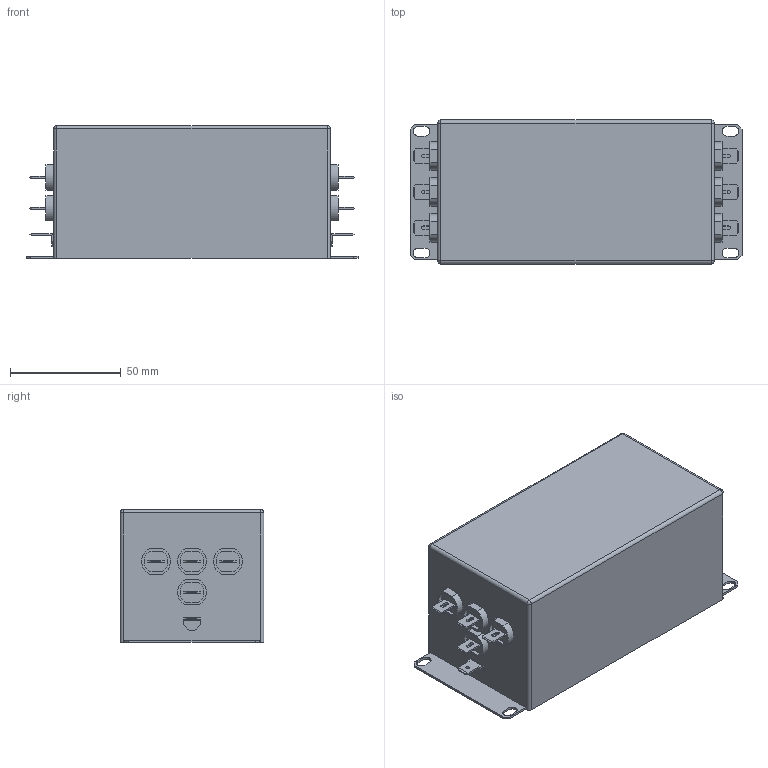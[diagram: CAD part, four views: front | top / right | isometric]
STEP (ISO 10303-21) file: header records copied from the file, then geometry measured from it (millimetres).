
FILE_DESCRIPTION((''),'2;1');
FILE_NAME('L:\INVENTOR_Projektedaten\HousingDesign\FN354-12-05.stp','2012-12-10T10:36:30',('Samuel.Meier'),(''),'Autodesk Inventor 2010','Autodesk Inventor 2010','');
FILE_SCHEMA(('AUTOMOTIVE_DESIGN { 1 2 10303 214 0 1 1 1 }'));
Length unit declared in the file: millimetre
Products named in the file (1): FN354-12-05
Bounding box: 150 x 65 x 60 mm (x, y, z)
Volume: 491543.5 mm3; surface area: 45257.6 mm2
Topology: 1 solids, 9 shells, 670 faces, 1838 edges, 1208 vertices
Faces by surface type: plane 392, cylinder 196, bspline 78, sphere 4
Full cylindrical faces by diameter (mm): 1.6 x2
Entity records: 23177 total; most frequent: CARTESIAN_POINT 5537, ORIENTED_EDGE 3664, DIRECTION 3290, EDGE_CURVE 1832, VECTOR 1304, LINE 1304, VERTEX_POINT 1208, AXIS2_PLACEMENT_3D 993
